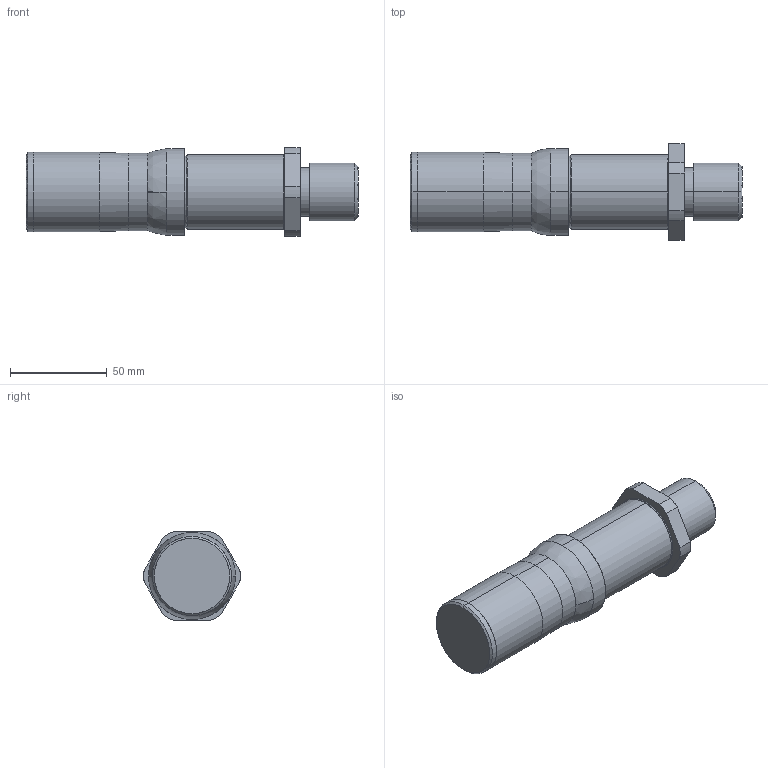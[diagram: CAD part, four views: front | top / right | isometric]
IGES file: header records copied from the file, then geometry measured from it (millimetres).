
Start section: SolidWorks IGES file using analytic representation for surfaces
Global section: file name: Z:\7-3D図面\02.3Dデータ(提出用)\電子カタログ\Ｓ／Ａ\FES\FES-3050.IGS; native system: SolidWorks 2015; preprocessor: SolidWorks 2015; author: flgijutsu02; date: 150615.135109; units: millimetre
Bounding box: 172 x 50 x 46 mm (x, y, z)
Surface area: 27855.5 mm2 (no closed solid volume)
Topology: 0 solids, 0 shells, 52 faces, 924 edges, 924 vertices
Faces by surface type: revolution 36, bspline 16
